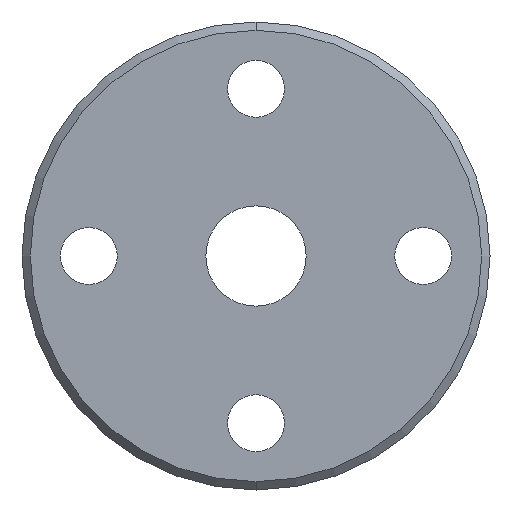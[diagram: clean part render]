
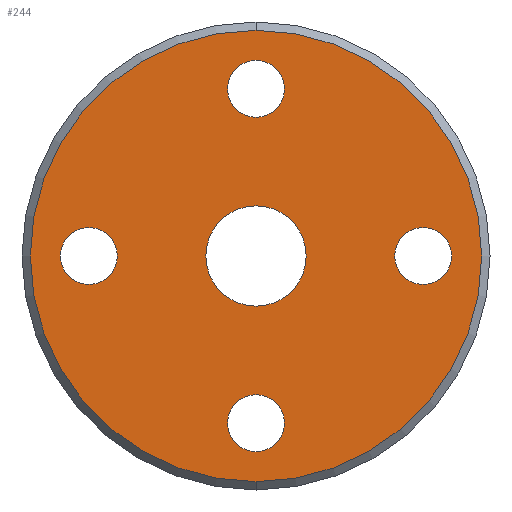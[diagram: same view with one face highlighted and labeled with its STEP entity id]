
A CAD part, front view. The second image highlights one B-rep face of the part: STEP entity #244.
In plain terms, the highlighted planar face has unit normal (0, -1, 0).
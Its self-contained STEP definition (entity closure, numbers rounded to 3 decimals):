
#10 = DIRECTION ( 'NONE',  ( 0., 1., 0. ) ) ;
#24 = DIRECTION ( 'NONE',  ( 0., 1., 0. ) ) ;
#27 = EDGE_CURVE ( 'NONE', #1027, #865, #534, .T. ) ;
#39 = CARTESIAN_POINT ( 'NONE',  ( -10., 0., 0. ) ) ;
#46 = FACE_BOUND ( 'NONE', #961, .T. ) ;
#54 = VERTEX_POINT ( 'NONE', #994 ) ;
#74 = EDGE_CURVE ( 'NONE', #54, #644, #589, .T. ) ;
#78 = VERTEX_POINT ( 'NONE', #764 ) ;
#85 = EDGE_CURVE ( 'NONE', #267, #486, #861, .T. ) ;
#89 = ORIENTED_EDGE ( 'NONE', *, *, #85, .F. ) ;
#95 = ORIENTED_EDGE ( 'NONE', *, *, #101, .T. ) ;
#97 = EDGE_CURVE ( 'NONE', #78, #148, #289, .T. ) ;
#101 = EDGE_CURVE ( 'NONE', #223, #446, #1035, .T. ) ;
#103 = AXIS2_PLACEMENT_3D ( 'NONE', #368, #141, #611 ) ;
#128 = AXIS2_PLACEMENT_3D ( 'NONE', #598, #503, #511 ) ;
#131 = EDGE_CURVE ( 'NONE', #446, #223, #738, .T. ) ;
#141 = DIRECTION ( 'NONE',  ( 0., 1., 0. ) ) ;
#146 = CIRCLE ( 'NONE', #295, 13.5 ) ;
#148 = VERTEX_POINT ( 'NONE', #848 ) ;
#168 = FACE_OUTER_BOUND ( 'NONE', #811, .T. ) ;
#173 = CARTESIAN_POINT ( 'NONE',  ( 0., 0., -10. ) ) ;
#182 = AXIS2_PLACEMENT_3D ( 'NONE', #792, #874, #953 ) ;
#186 = AXIS2_PLACEMENT_3D ( 'NONE', #801, #10, #634 ) ;
#193 = EDGE_CURVE ( 'NONE', #671, #1041, #386, .T. ) ;
#205 = DIRECTION ( 'NONE',  ( 0., 1., 0. ) ) ;
#210 = CARTESIAN_POINT ( 'NONE',  ( 10., 0., 0. ) ) ;
#220 = ORIENTED_EDGE ( 'NONE', *, *, #193, .T. ) ;
#223 = VERTEX_POINT ( 'NONE', #303 ) ;
#224 = DIRECTION ( 'NONE',  ( 0., 0., 1. ) ) ;
#228 = EDGE_LOOP ( 'NONE', ( #220, #396 ) ) ;
#244 = ADVANCED_FACE ( 'NONE', ( #518, #543, #1007, #46, #1012, #168 ), #485, .F. ) ;
#267 = VERTEX_POINT ( 'NONE', #727 ) ;
#283 = DIRECTION ( 'NONE',  ( 0., 1., 0. ) ) ;
#289 = CIRCLE ( 'NONE', #103, 1.7 ) ;
#295 = AXIS2_PLACEMENT_3D ( 'NONE', #934, #677, #845 ) ;
#302 = CARTESIAN_POINT ( 'NONE',  ( 0., 0., -10. ) ) ;
#303 = CARTESIAN_POINT ( 'NONE',  ( 10., 0., -1.7 ) ) ;
#310 = EDGE_CURVE ( 'NONE', #148, #78, #650, .T. ) ;
#324 = EDGE_CURVE ( 'NONE', #865, #1027, #823, .T. ) ;
#343 = DIRECTION ( 'NONE',  ( 0., -1., 0. ) ) ;
#346 = CARTESIAN_POINT ( 'NONE',  ( 0., 0., 0. ) ) ;
#349 = CARTESIAN_POINT ( 'NONE',  ( 0., 0., 3. ) ) ;
#368 = CARTESIAN_POINT ( 'NONE',  ( 0., 0., 10. ) ) ;
#369 = ORIENTED_EDGE ( 'NONE', *, *, #74, .T. ) ;
#386 = CIRCLE ( 'NONE', #870, 1.7 ) ;
#392 = CIRCLE ( 'NONE', #637, 1.7 ) ;
#396 = ORIENTED_EDGE ( 'NONE', *, *, #935, .T. ) ;
#415 = DIRECTION ( 'NONE',  ( 0., -1., 0. ) ) ;
#446 = VERTEX_POINT ( 'NONE', #975 ) ;
#451 = ORIENTED_EDGE ( 'NONE', *, *, #27, .T. ) ;
#473 = ORIENTED_EDGE ( 'NONE', *, *, #310, .T. ) ;
#485 = PLANE ( 'NONE',  #186 ) ;
#486 = VERTEX_POINT ( 'NONE', #349 ) ;
#503 = DIRECTION ( 'NONE',  ( 0., -1., 0. ) ) ;
#505 = EDGE_CURVE ( 'NONE', #486, #267, #730, .T. ) ;
#511 = DIRECTION ( 'NONE',  ( 0., 0., 1. ) ) ;
#518 = FACE_BOUND ( 'NONE', #635, .T. ) ;
#524 = DIRECTION ( 'NONE',  ( 0., 0., 1. ) ) ;
#534 = CIRCLE ( 'NONE', #831, 1.7 ) ;
#537 = AXIS2_PLACEMENT_3D ( 'NONE', #929, #343, #850 ) ;
#543 = FACE_BOUND ( 'NONE', #228, .T. ) ;
#564 = AXIS2_PLACEMENT_3D ( 'NONE', #346, #415, #750 ) ;
#589 = CIRCLE ( 'NONE', #128, 13.5 ) ;
#598 = CARTESIAN_POINT ( 'NONE',  ( 0., 0., 0. ) ) ;
#608 = CARTESIAN_POINT ( 'NONE',  ( 0., 0., 13.5 ) ) ;
#611 = DIRECTION ( 'NONE',  ( 0., 0., 1. ) ) ;
#619 = CARTESIAN_POINT ( 'NONE',  ( 10., 0., 0. ) ) ;
#634 = DIRECTION ( 'NONE',  ( 1., 0., 0. ) ) ;
#635 = EDGE_LOOP ( 'NONE', ( #89, #950 ) ) ;
#637 = AXIS2_PLACEMENT_3D ( 'NONE', #878, #871, #224 ) ;
#644 = VERTEX_POINT ( 'NONE', #608 ) ;
#650 = CIRCLE ( 'NONE', #182, 1.7 ) ;
#654 = ORIENTED_EDGE ( 'NONE', *, *, #324, .T. ) ;
#666 = AXIS2_PLACEMENT_3D ( 'NONE', #210, #205, #524 ) ;
#671 = VERTEX_POINT ( 'NONE', #925 ) ;
#677 = DIRECTION ( 'NONE',  ( 0., -1., 0. ) ) ;
#727 = CARTESIAN_POINT ( 'NONE',  ( 0., 0., -3. ) ) ;
#730 = CIRCLE ( 'NONE', #537, 3. ) ;
#738 = CIRCLE ( 'NONE', #666, 1.7 ) ;
#750 = DIRECTION ( 'NONE',  ( 0., 0., -1. ) ) ;
#754 = ORIENTED_EDGE ( 'NONE', *, *, #97, .T. ) ;
#764 = CARTESIAN_POINT ( 'NONE',  ( 0., 0., 11.7 ) ) ;
#772 = CARTESIAN_POINT ( 'NONE',  ( -10., 0., -1.7 ) ) ;
#777 = CARTESIAN_POINT ( 'NONE',  ( 0., 0., -11.7 ) ) ;
#782 = DIRECTION ( 'NONE',  ( 0., 0., 1. ) ) ;
#792 = CARTESIAN_POINT ( 'NONE',  ( 0., 0., 10. ) ) ;
#801 = CARTESIAN_POINT ( 'NONE',  ( 0., 0., 0. ) ) ;
#804 = DIRECTION ( 'NONE',  ( 0., 0., 1. ) ) ;
#807 = AXIS2_PLACEMENT_3D ( 'NONE', #619, #943, #782 ) ;
#811 = EDGE_LOOP ( 'NONE', ( #990, #369 ) ) ;
#812 = EDGE_CURVE ( 'NONE', #644, #54, #146, .T. ) ;
#813 = DIRECTION ( 'NONE',  ( 0., 1., 0. ) ) ;
#817 = ORIENTED_EDGE ( 'NONE', *, *, #131, .T. ) ;
#823 = CIRCLE ( 'NONE', #915, 1.7 ) ;
#826 = DIRECTION ( 'NONE',  ( 0., 0., 1. ) ) ;
#831 = AXIS2_PLACEMENT_3D ( 'NONE', #173, #24, #826 ) ;
#845 = DIRECTION ( 'NONE',  ( 0., 0., 1. ) ) ;
#848 = CARTESIAN_POINT ( 'NONE',  ( 0., 0., 8.3 ) ) ;
#850 = DIRECTION ( 'NONE',  ( 0., 0., -1. ) ) ;
#859 = EDGE_LOOP ( 'NONE', ( #654, #451 ) ) ;
#861 = CIRCLE ( 'NONE', #564, 3. ) ;
#865 = VERTEX_POINT ( 'NONE', #986 ) ;
#870 = AXIS2_PLACEMENT_3D ( 'NONE', #39, #283, #926 ) ;
#871 = DIRECTION ( 'NONE',  ( 0., 1., 0. ) ) ;
#874 = DIRECTION ( 'NONE',  ( 0., 1., 0. ) ) ;
#878 = CARTESIAN_POINT ( 'NONE',  ( -10., 0., 0. ) ) ;
#915 = AXIS2_PLACEMENT_3D ( 'NONE', #302, #813, #804 ) ;
#925 = CARTESIAN_POINT ( 'NONE',  ( -10., 0., 1.7 ) ) ;
#926 = DIRECTION ( 'NONE',  ( 0., 0., 1. ) ) ;
#929 = CARTESIAN_POINT ( 'NONE',  ( 0., 0., 0. ) ) ;
#934 = CARTESIAN_POINT ( 'NONE',  ( 0., 0., 0. ) ) ;
#935 = EDGE_CURVE ( 'NONE', #1041, #671, #392, .T. ) ;
#943 = DIRECTION ( 'NONE',  ( 0., 1., 0. ) ) ;
#950 = ORIENTED_EDGE ( 'NONE', *, *, #505, .F. ) ;
#953 = DIRECTION ( 'NONE',  ( 0., 0., 1. ) ) ;
#961 = EDGE_LOOP ( 'NONE', ( #817, #95 ) ) ;
#975 = CARTESIAN_POINT ( 'NONE',  ( 10., 0., 1.7 ) ) ;
#986 = CARTESIAN_POINT ( 'NONE',  ( 0., 0., -8.3 ) ) ;
#990 = ORIENTED_EDGE ( 'NONE', *, *, #812, .T. ) ;
#994 = CARTESIAN_POINT ( 'NONE',  ( 0., 0., -13.5 ) ) ;
#1007 = FACE_BOUND ( 'NONE', #1020, .T. ) ;
#1012 = FACE_BOUND ( 'NONE', #859, .T. ) ;
#1020 = EDGE_LOOP ( 'NONE', ( #754, #473 ) ) ;
#1027 = VERTEX_POINT ( 'NONE', #777 ) ;
#1035 = CIRCLE ( 'NONE', #807, 1.7 ) ;
#1041 = VERTEX_POINT ( 'NONE', #772 ) ;
